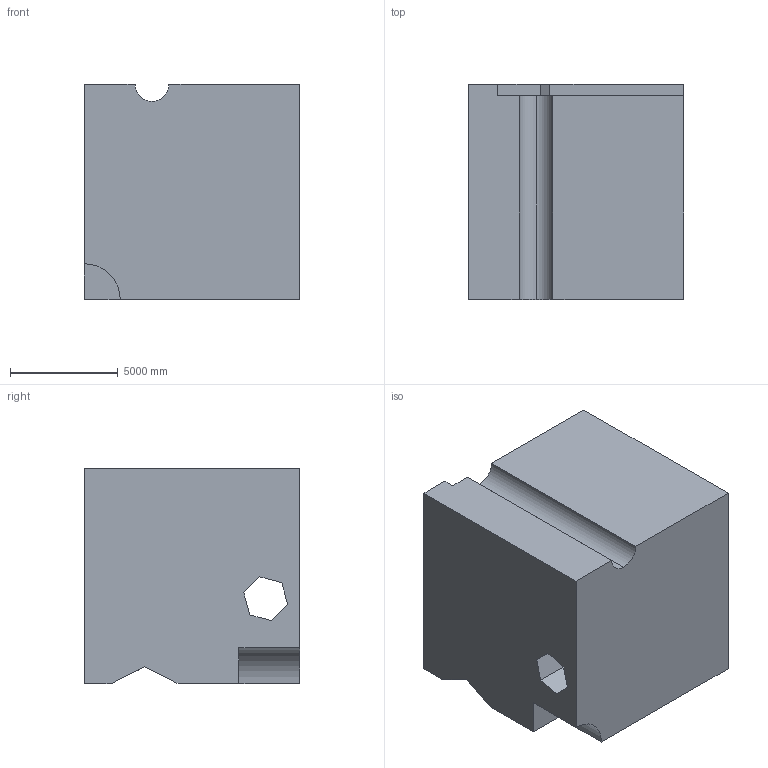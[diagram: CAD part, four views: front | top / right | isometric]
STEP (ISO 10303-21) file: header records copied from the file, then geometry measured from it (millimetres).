
FILE_DESCRIPTION (( 'STEP AP203' ), '1' );
FILE_NAME ('64.STEP', '2022-09-01T11:52:47', ( 'user' ), ( '' ), 'SwSTEP 2.0', 'SolidWorks 2021', '' );
FILE_SCHEMA (( 'CONFIG_CONTROL_DESIGN' ));
Length unit declared in the file: centimetre
Products named in the file (1): 64
Bounding box: 10000 x 10000 x 10000 mm (x, y, z)
Volume: 928805762279.4 mm3; surface area: 682985909.9 mm2
Topology: 1 solids, 1 shells, 34 faces, 96 edges, 64 vertices
Faces by surface type: plane 29, cylinder 5
Entity records: 1171 total; most frequent: CARTESIAN_POINT 195, ORIENTED_EDGE 192, DIRECTION 176, EDGE_CURVE 96, VECTOR 86, LINE 86, VERTEX_POINT 64, AXIS2_PLACEMENT_3D 45
